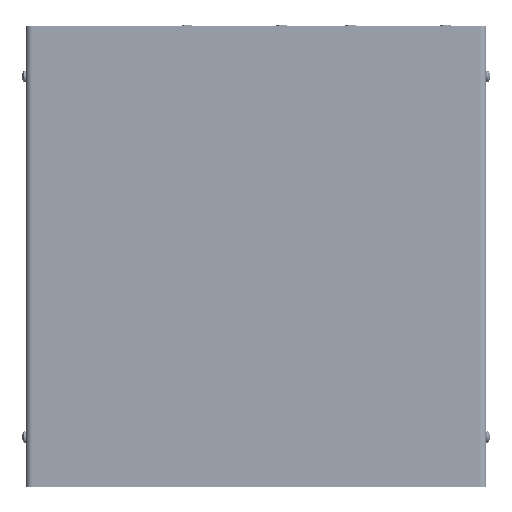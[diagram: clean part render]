
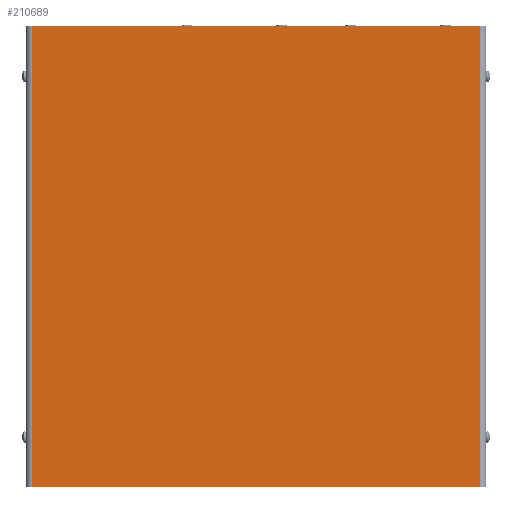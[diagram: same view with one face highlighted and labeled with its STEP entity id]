
A CAD part, top view. The second image highlights one B-rep face of the part: STEP entity #210689.
In plain terms, the highlighted planar face has unit normal (0, 0, 1) as drawn and (0, 0, -1) by its records, which use the part's own axes.
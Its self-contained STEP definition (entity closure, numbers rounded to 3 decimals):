
#23968=PLANE('',#220206);
#34941=FACE_OUTER_BOUND('',#46957,.T.);
#46957=EDGE_LOOP('',(#191913,#191914,#191915,#191916));
#64557=LINE('',#397088,#84456);
#64574=LINE('',#397139,#84473);
#64578=LINE('',#397149,#84477);
#64579=LINE('',#397151,#84478);
#84456=VECTOR('',#253655,10.);
#84473=VECTOR('',#253704,10.);
#84477=VECTOR('',#253718,10.);
#84478=VECTOR('',#253721,10.);
#107265=VERTEX_POINT('',#397085);
#107266=VERTEX_POINT('',#397087);
#107283=VERTEX_POINT('',#397136);
#107284=VERTEX_POINT('',#397138);
#135911=EDGE_CURVE('',#107265,#107266,#64557,.T.);
#135937=EDGE_CURVE('',#107283,#107284,#64574,.T.);
#135943=EDGE_CURVE('',#107266,#107283,#64578,.T.);
#135944=EDGE_CURVE('',#107284,#107265,#64579,.T.);
#191913=ORIENTED_EDGE('',*,*,#135943,.F.);
#191914=ORIENTED_EDGE('',*,*,#135911,.F.);
#191915=ORIENTED_EDGE('',*,*,#135944,.F.);
#191916=ORIENTED_EDGE('',*,*,#135937,.F.);
#210689=ADVANCED_FACE('',(#34941),#23968,.F.);
#220206=AXIS2_PLACEMENT_3D('',#397158,#253732,#253733);
#253655=DIRECTION('',(-1.,0.,0.));
#253704=DIRECTION('',(1.,0.,0.));
#253718=DIRECTION('',(0.,-1.,0.));
#253721=DIRECTION('',(0.,1.,0.));
#253732=DIRECTION('center_axis',(0.,0.,1.));
#253733=DIRECTION('ref_axis',(1.,0.,0.));
#397085=CARTESIAN_POINT('',(225.12,228.6,0.));
#397087=CARTESIAN_POINT('',(3.048,228.6,0.));
#397088=CARTESIAN_POINT('',(228.168,228.6,0.));
#397136=CARTESIAN_POINT('',(3.048,0.,0.));
#397138=CARTESIAN_POINT('',(225.12,0.,0.));
#397139=CARTESIAN_POINT('',(0.,0.,0.));
#397149=CARTESIAN_POINT('',(3.048,171.45,0.));
#397151=CARTESIAN_POINT('',(225.12,57.15,0.));
#397158=CARTESIAN_POINT('Origin',(114.084,114.3,0.));
